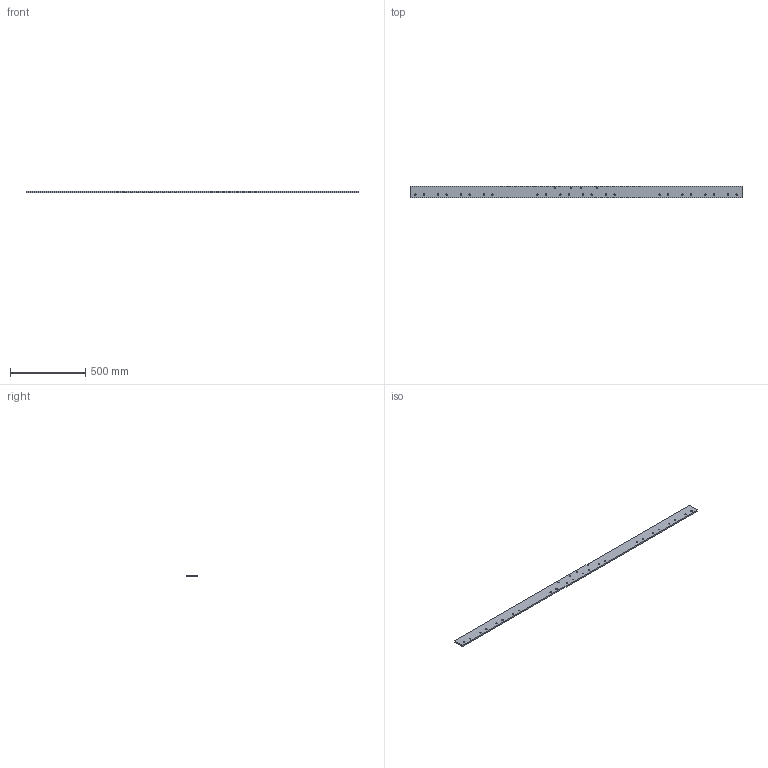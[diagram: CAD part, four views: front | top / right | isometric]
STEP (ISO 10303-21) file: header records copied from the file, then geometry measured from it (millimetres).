
FILE_DESCRIPTION (( 'STEP AP203' ), '1' );
FILE_NAME ('269-18-410.STEP', '2020-03-02T21:02:25', ( '' ), ( '' ), 'SwSTEP 2.0', 'SolidWorks 2017', '' );
FILE_SCHEMA (( 'CONFIG_CONTROL_DESIGN' ));
Length unit declared in the file: inch
Products named in the file (1): 269-18-410
Bounding box: 2209.8 x 76.2 x 9.53 mm (x, y, z)
Volume: 1586986.6 mm3; surface area: 384290.8 mm2
Topology: 1 solids, 1 shells, 62 faces, 180 edges, 120 vertices
Faces by surface type: cylinder 56, plane 6
Entity records: 2307 total; most frequent: DIRECTION 418, CARTESIAN_POINT 363, ORIENTED_EDGE 360, EDGE_CURVE 180, AXIS2_PLACEMENT_3D 175, VERTEX_POINT 120, EDGE_LOOP 118, CIRCLE 112
